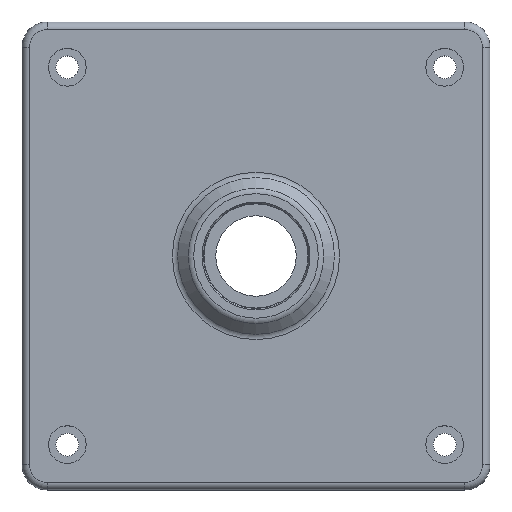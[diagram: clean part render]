
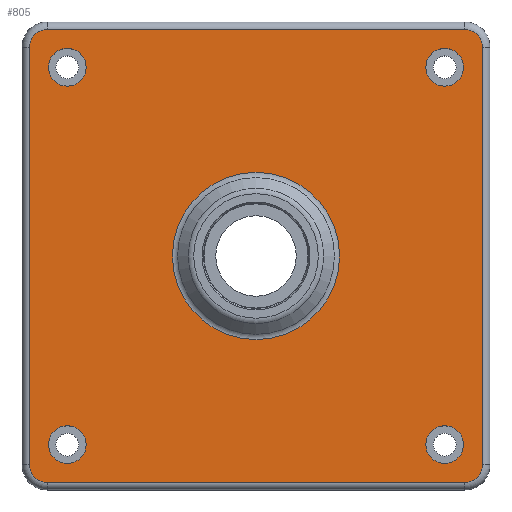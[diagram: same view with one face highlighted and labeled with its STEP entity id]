
A CAD part, top view. The second image highlights one B-rep face of the part: STEP entity #805.
In plain terms, the highlighted planar face has unit normal (0, 0, 1).
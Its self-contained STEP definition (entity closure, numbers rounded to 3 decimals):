
#20=FACE_BOUND('',#223,.T.);
#21=FACE_BOUND('',#224,.T.);
#22=FACE_BOUND('',#225,.T.);
#23=FACE_BOUND('',#226,.T.);
#24=FACE_BOUND('',#227,.T.);
#43=PLANE('',#901);
#58=LINE('',#1321,#96);
#60=LINE('',#1333,#98);
#62=LINE('',#1345,#100);
#64=LINE('',#1354,#102);
#96=VECTOR('',#1019,10.);
#98=VECTOR('',#1033,10.);
#100=VECTOR('',#1047,10.);
#102=VECTOR('',#1059,10.);
#167=FACE_OUTER_BOUND('',#222,.T.);
#222=EDGE_LOOP('',(#599,#600,#601,#602,#603,#604,#605,#606));
#223=EDGE_LOOP('',(#607));
#224=EDGE_LOOP('',(#608));
#225=EDGE_LOOP('',(#609));
#226=EDGE_LOOP('',(#610));
#227=EDGE_LOOP('',(#611));
#289=CIRCLE('',#875,7.);
#292=CIRCLE('',#880,7.);
#296=CIRCLE('',#886,7.);
#300=CIRCLE('',#892,7.);
#304=CIRCLE('',#902,33.243);
#305=CIRCLE('',#903,7.5);
#306=CIRCLE('',#904,7.5);
#307=CIRCLE('',#905,7.5);
#308=CIRCLE('',#906,7.5);
#363=VERTEX_POINT('',#1309);
#366=VERTEX_POINT('',#1314);
#368=VERTEX_POINT('',#1319);
#370=VERTEX_POINT('',#1325);
#372=VERTEX_POINT('',#1331);
#374=VERTEX_POINT('',#1337);
#376=VERTEX_POINT('',#1343);
#378=VERTEX_POINT('',#1349);
#384=VERTEX_POINT('',#1375);
#385=VERTEX_POINT('',#1377);
#386=VERTEX_POINT('',#1379);
#387=VERTEX_POINT('',#1381);
#388=VERTEX_POINT('',#1383);
#439=EDGE_CURVE('',#366,#363,#289,.T.);
#441=EDGE_CURVE('',#368,#366,#58,.T.);
#444=EDGE_CURVE('',#370,#368,#292,.T.);
#447=EDGE_CURVE('',#372,#370,#60,.T.);
#450=EDGE_CURVE('',#374,#372,#296,.T.);
#453=EDGE_CURVE('',#376,#374,#62,.T.);
#456=EDGE_CURVE('',#378,#376,#300,.T.);
#458=EDGE_CURVE('',#363,#378,#64,.T.);
#469=EDGE_CURVE('',#384,#384,#304,.T.);
#470=EDGE_CURVE('',#385,#385,#305,.T.);
#471=EDGE_CURVE('',#386,#386,#306,.T.);
#472=EDGE_CURVE('',#387,#387,#307,.T.);
#473=EDGE_CURVE('',#388,#388,#308,.T.);
#599=ORIENTED_EDGE('',*,*,#439,.F.);
#600=ORIENTED_EDGE('',*,*,#441,.F.);
#601=ORIENTED_EDGE('',*,*,#444,.F.);
#602=ORIENTED_EDGE('',*,*,#447,.F.);
#603=ORIENTED_EDGE('',*,*,#450,.F.);
#604=ORIENTED_EDGE('',*,*,#453,.F.);
#605=ORIENTED_EDGE('',*,*,#456,.F.);
#606=ORIENTED_EDGE('',*,*,#458,.F.);
#607=ORIENTED_EDGE('',*,*,#469,.F.);
#608=ORIENTED_EDGE('',*,*,#470,.T.);
#609=ORIENTED_EDGE('',*,*,#471,.T.);
#610=ORIENTED_EDGE('',*,*,#472,.T.);
#611=ORIENTED_EDGE('',*,*,#473,.T.);
#805=ADVANCED_FACE('',(#167,#20,#21,#22,#23,#24),#43,.T.);
#875=AXIS2_PLACEMENT_3D('',#1316,#1013,#1014);
#880=AXIS2_PLACEMENT_3D('',#1327,#1025,#1026);
#886=AXIS2_PLACEMENT_3D('',#1339,#1039,#1040);
#892=AXIS2_PLACEMENT_3D('',#1351,#1053,#1054);
#901=AXIS2_PLACEMENT_3D('',#1374,#1080,#1081);
#902=AXIS2_PLACEMENT_3D('',#1376,#1082,#1083);
#903=AXIS2_PLACEMENT_3D('',#1378,#1084,#1085);
#904=AXIS2_PLACEMENT_3D('',#1380,#1086,#1087);
#905=AXIS2_PLACEMENT_3D('',#1382,#1088,#1089);
#906=AXIS2_PLACEMENT_3D('',#1384,#1090,#1091);
#1013=DIRECTION('center_axis',(0.,0.,-1.));
#1014=DIRECTION('ref_axis',(0.707,0.707,0.));
#1019=DIRECTION('',(1.,0.,0.));
#1025=DIRECTION('center_axis',(0.,0.,-1.));
#1026=DIRECTION('ref_axis',(-0.707,0.707,0.));
#1033=DIRECTION('',(0.,1.,0.));
#1039=DIRECTION('center_axis',(0.,0.,-1.));
#1040=DIRECTION('ref_axis',(-0.707,-0.707,0.));
#1047=DIRECTION('',(-1.,0.,0.));
#1053=DIRECTION('center_axis',(0.,0.,-1.));
#1054=DIRECTION('ref_axis',(0.707,-0.707,0.));
#1059=DIRECTION('',(0.,-1.,0.));
#1080=DIRECTION('center_axis',(0.,0.,1.));
#1081=DIRECTION('ref_axis',(1.,0.,0.));
#1082=DIRECTION('center_axis',(0.,0.,1.));
#1083=DIRECTION('ref_axis',(-1.,0.,0.));
#1084=DIRECTION('center_axis',(0.,0.,-1.));
#1085=DIRECTION('ref_axis',(1.,0.,0.));
#1086=DIRECTION('center_axis',(0.,0.,-1.));
#1087=DIRECTION('ref_axis',(0.,-1.,0.));
#1088=DIRECTION('center_axis',(0.,0.,-1.));
#1089=DIRECTION('ref_axis',(-1.,0.,0.));
#1090=DIRECTION('center_axis',(0.,0.,-1.));
#1091=DIRECTION('ref_axis',(0.,1.,0.));
#1309=CARTESIAN_POINT('',(90.,83.,15.));
#1314=CARTESIAN_POINT('',(83.,90.,15.));
#1316=CARTESIAN_POINT('Origin',(83.,83.,15.));
#1319=CARTESIAN_POINT('',(-83.,90.,15.));
#1321=CARTESIAN_POINT('',(41.5,90.,15.));
#1325=CARTESIAN_POINT('',(-90.,83.,15.));
#1327=CARTESIAN_POINT('Origin',(-83.,83.,15.));
#1331=CARTESIAN_POINT('',(-90.,-83.,15.));
#1333=CARTESIAN_POINT('',(-90.,41.5,15.));
#1337=CARTESIAN_POINT('',(-83.,-90.,15.));
#1339=CARTESIAN_POINT('Origin',(-83.,-83.,15.));
#1343=CARTESIAN_POINT('',(83.,-90.,15.));
#1345=CARTESIAN_POINT('',(-41.5,-90.,15.));
#1349=CARTESIAN_POINT('',(90.,-83.,15.));
#1351=CARTESIAN_POINT('Origin',(83.,-83.,15.));
#1354=CARTESIAN_POINT('',(90.,-41.5,15.));
#1374=CARTESIAN_POINT('Origin',(0.,0.,15.));
#1375=CARTESIAN_POINT('',(33.243,0.,15.));
#1376=CARTESIAN_POINT('Origin',(0.,0.,15.));
#1377=CARTESIAN_POINT('',(67.5,-75.,15.));
#1378=CARTESIAN_POINT('Origin',(75.,-75.,15.));
#1379=CARTESIAN_POINT('',(-75.,-67.5,15.));
#1380=CARTESIAN_POINT('Origin',(-75.,-75.,15.));
#1381=CARTESIAN_POINT('',(-67.5,75.,15.));
#1382=CARTESIAN_POINT('Origin',(-75.,75.,15.));
#1383=CARTESIAN_POINT('',(75.,67.5,15.));
#1384=CARTESIAN_POINT('Origin',(75.,75.,15.));
